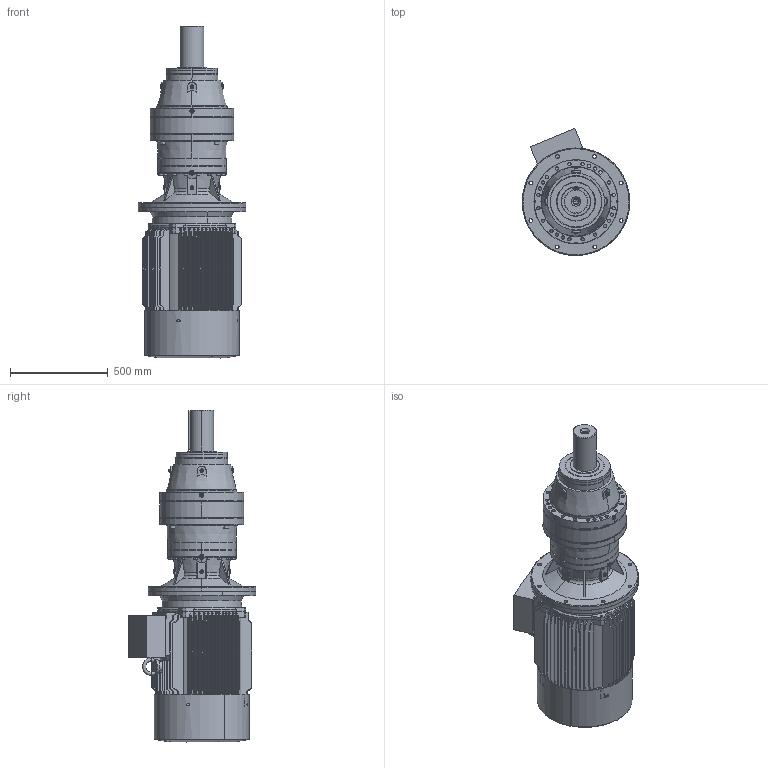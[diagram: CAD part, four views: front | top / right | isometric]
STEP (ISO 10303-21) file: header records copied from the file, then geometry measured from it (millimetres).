
FILE_DESCRIPTION (( 'STEP AP203' ), '1' );
FILE_NAME ('PVL-2902L-HS250-4.STEP', '2019-05-22T08:33:23', ( '' ), ( '' ), 'SwSTEP 2.0', 'SolidWorks 2012', '' );
FILE_SCHEMA (( 'CONFIG_CONTROL_DESIGN' ));
Products named in the file (16): HS250M-4-B5; 250-4B5; PVL-2902L-HS250-4; 280ﾁｧ+ﾀ_-ｼ+､; Y2-250-2.4.6.8ｦｾﾂ-ｩﾃ Y2-250-2ﾃｦﾂ-ｩﾃ_-ｼ+､; Y2-250-4.6.8-ｦﾈﾁﾂ-ｩﾃ_-ｼ+､; Y2-250-4.6.8ú¼280-2Ã¦Íß¦ð-Ô©Ã_-¼+¤; Y2-250-4ﾍﾟ_-ｼ+､; Y2-250M-2.4.6.8ﾀiﾍ_-ｼ+､; Y2-250 B5+ｷﾎｨ_-ｼ+､; ML49A_Varsayìlan; PNL_2902L_0_0_A25_B5_ML49A_FL15A_0_0_0_0_0_0_0_0_0_0_0_M1; FL15A_Varsayìlan; EK2902L_Varsayìlan; 23250B5_Varsayìlan; P29_Varsayìlan
Assembly tree (15 placements, depth 4):
  PVL-2902L-HS250-4
    PNL_2902L_0_0_A25_B5_ML49A_FL15A_0_0_0_0_0_0_0_0_0_0_0_M1
      P29_Varsayìlan
      23250B5_Varsayìlan
      ML49A_Varsayìlan
      EK2902L_Varsayìlan
      FL15A_Varsayìlan
    HS250M-4-B5
      250-4B5
        Y2-250-4.6.8ú¼280-2Ã¦Íß¦ð-Ô©Ã_-¼+¤
        Y2-250-4ﾍﾟ_-ｼ+､
        Y2-250 B5+ｷﾎｨ_-ｼ+､
        Y2-250M-2.4.6.8ﾀiﾍ_-ｼ+､
        Y2-250-2.4.6.8ｦｾﾂ-ｩﾃ Y2-250-2ﾃｦﾂ-ｩﾃ_-ｼ+､
        280ﾁｧ+ﾀ_-ｼ+､
        Y2-250-4.6.8-ｦﾈﾁﾂ-ｩﾃ_-ｼ+､
Bounding box: 550 x 650.24 x 1696.97 mm (x, y, z)
Volume: 96178304.4 mm3; surface area: 7988345.2 mm2
Topology: 16 solids, 16 shells, 2376 faces, 6190 edges, 3930 vertices
Faces by surface type: plane 860, cylinder 825, cone 375, bspline 316
Entity records: 90261 total; most frequent: CARTESIAN_POINT 32071, ORIENTED_EDGE 12232, DIRECTION 11312, EDGE_CURVE 6116, AXIS2_PLACEMENT_3D 4401, VERTEX_POINT 3930, EDGE_LOOP 2788, LINE 2510
